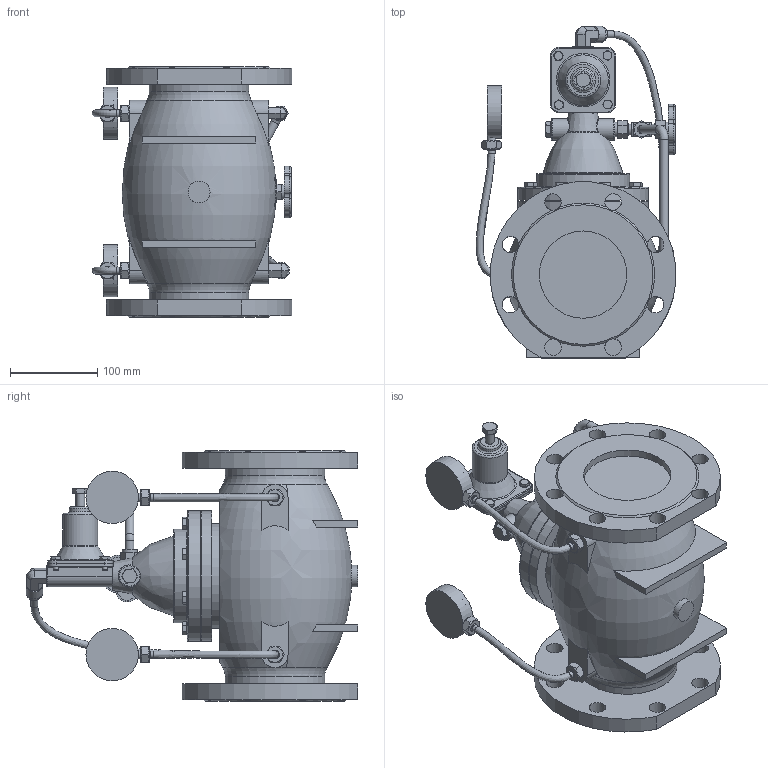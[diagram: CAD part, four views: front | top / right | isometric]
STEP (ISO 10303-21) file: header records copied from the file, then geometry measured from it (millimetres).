
FILE_DESCRIPTION(('STEP AP242'), '1');
FILE_NAME('PVA1-1313RR-F Ìåìáðàííûé ðåãóëÿòîð äàâëåíèÿ «ïîñëå ñåáÿ» ñ ïèëîòíûì óïðàâëåíèåì DN.ru Äó100 Ðó16', '', ('UNSPECIFIED'), ('UNSPECIFIED'), 'C3D Converter', 'C3D Toolkit', '');
FILE_SCHEMA(('AP242_MANAGED_MODEL_BASED_3D_ENGINEERING_MIM_LF { 1 0 10303 442 1 1 4 }'));
Length unit declared in the file: millimetre
Products named in the file (1): PVA1-1313RR-F6
Bounding box: 228.75 x 379.98 x 287 mm (x, y, z)
Volume: 6808196.1 mm3; surface area: 490130.9 mm2
Topology: 1 solids, 7 shells, 1437 faces, 3518 edges, 2254 vertices
Faces by surface type: plane 842, cylinder 194, bspline 177, cone 144, torus 51, extrusion 29
Full cylindrical faces by diameter (mm): 2.03 x2, 3 x2, 6 x8, 8 x14, 9 x8, 10 x10, 10.363 x4, 12 x3, 12.573 x3, 12.954 x1, 13 x8, 14.254 x3, 14.287 x1, 16 x2, 16.192 x2, 16.967 x3, 19 x17, 19.05 x2, 23.884 x1, 25 x4, 40 x1, 56.933 x2, 57.199 x1, 60 x2, 64.636 x1, 100 x2, 106.882 x1, 114 x2, 120 x1, 150 x2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
Entity records: 107573 total; most frequent: CARTESIAN_POINT 70158, ORIENTED_EDGE 6670, DIRECTION 5794, EDGE_CURVE 3335, VERTEX_POINT 2243, AXIS2_PLACEMENT_3D 2003, EDGE_LOOP 1816, VECTOR 1788
